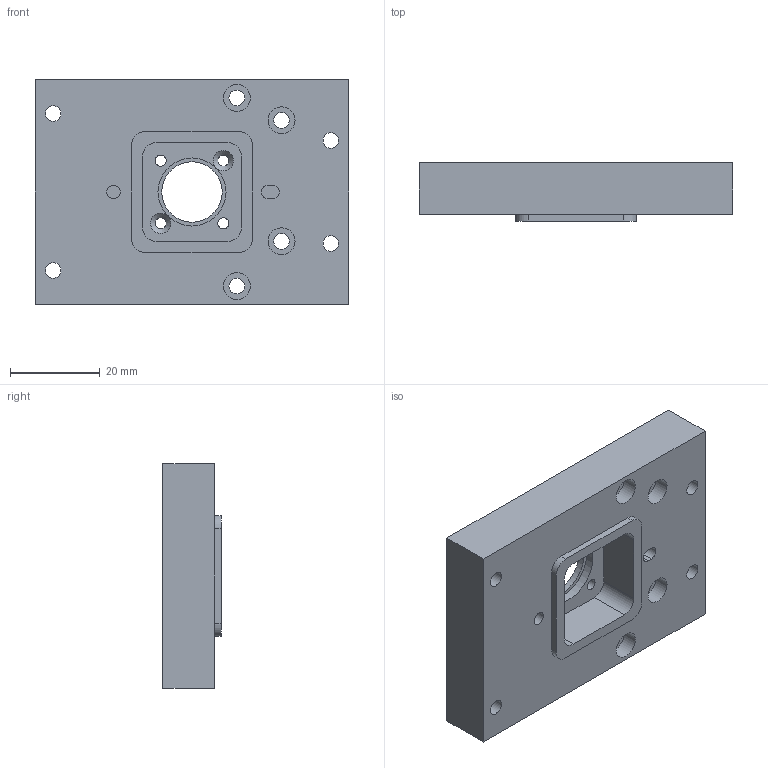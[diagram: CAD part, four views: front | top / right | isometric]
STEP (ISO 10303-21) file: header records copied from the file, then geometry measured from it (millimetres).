
FILE_DESCRIPTION(/* description */ (''),/* implementation_level */ '2;1');
FILE_NAME(/* name */ 'C:\Users\strothej\Documents\ActualDocuments\MicroscopeParts\TwoPhotonSystem\ScanningMechanics\v32\Drawings\Collection_Filter_PMT_Mount.stp',/* time_stamp */ '2017-07-17T16:55:45-07:00',/* author */ ('strothej'),/* organization */ (''),/* preprocessor_version */ 'ST-DEVELOPER v16.1',/* originating_system */ 'Autodesk Inventor 2016',/* authorisation */ '');
FILE_SCHEMA (('AUTOMOTIVE_DESIGN { 1 0 10303 214 3 1 1 }'));
Length unit declared in the file: millimetre
Products named in the file (1): Collection_Filter_PMT_Mount
Bounding box: 70 x 13 x 50 mm (x, y, z)
Volume: 34640.8 mm3; surface area: 11840.9 mm2
Topology: 1 solids, 1 shells, 64 faces, 149 edges, 100 vertices
Faces by surface type: cylinder 33, plane 29, cone 2
Full cylindrical faces by diameter (mm): 2.5 x4, 3 x1, 3.5 x8, 6 x8, 13.5 x1, 15.2 x1
Entity records: 1772 total; most frequent: DIRECTION 318, CARTESIAN_POINT 281, ORIENTED_EDGE 240, AXIS2_PLACEMENT_3D 133, EDGE_LOOP 128, EDGE_CURVE 120, VERTEX_POINT 96, CIRCLE 68
